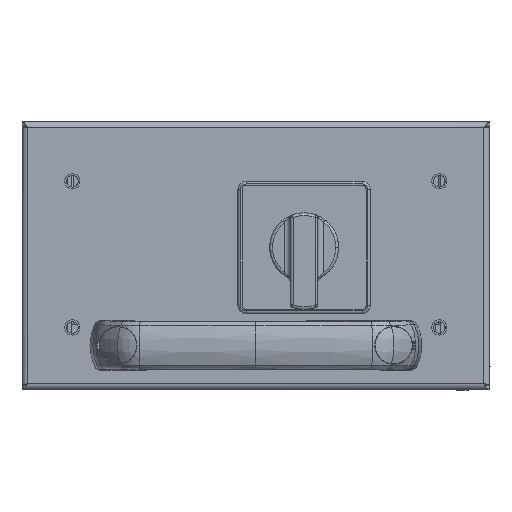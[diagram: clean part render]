
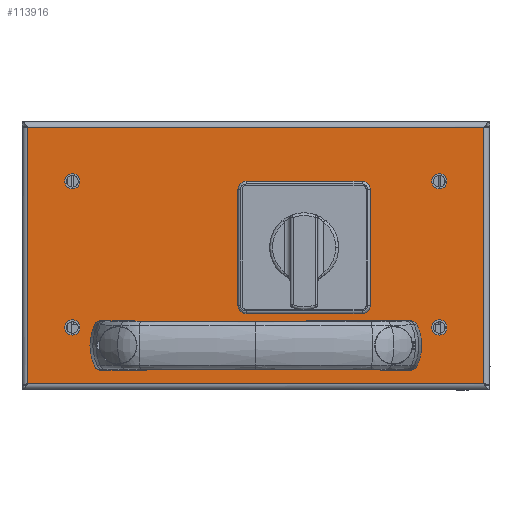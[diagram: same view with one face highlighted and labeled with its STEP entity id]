
A CAD part, top view. The second image highlights one B-rep face of the part: STEP entity #113916.
In plain terms, the highlighted planar face has unit normal (0, 0, 1).
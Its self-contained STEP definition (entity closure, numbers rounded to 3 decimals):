
#112956=CARTESIAN_POINT(' ',(52.75,-32.5,0.));
#112957=VERTEX_POINT(' ',#112956);
#112976=CARTESIAN_POINT(' ',(50.,-32.5,0.));
#112981=DIRECTION(' ',(0.,0.,1.));
#112986=DIRECTION(' ',(1.,0.,0.));
#112991=AXIS2_PLACEMENT_3D(' ',#112976,#112981,#112986);
#112996=CIRCLE('',#112991,2.75);
#113001=CARTESIAN_POINT(' ',(47.25,-32.5,0.));
#113002=VERTEX_POINT(' ',#113001);
#113006=EDGE_CURVE(' ',#112957,#113002,#112996,.T.);
#113176=CARTESIAN_POINT(' ',(50.,-32.5,0.));
#113181=DIRECTION(' ',(0.,0.,1.));
#113186=DIRECTION(' ',(-1.,0.,0.));
#113191=AXIS2_PLACEMENT_3D(' ',#113176,#113181,#113186);
#113196=CIRCLE('',#113191,2.75);
#113201=EDGE_CURVE(' ',#113002,#112957,#113196,.T.);
#113271=DIRECTION(' ',(-0.,-0.,1.));
#113276=CARTESIAN_POINT(' ',(82.65,-46.4,0.));
#113281=DIRECTION(' ',(0.,1.,0.));
#113286=AXIS2_PLACEMENT_3D(' ',#113276,#113271,#113281);
#113291=PLANE('NONE',#113286);
#113296=CARTESIAN_POINT(' ',(-82.65,46.4,0.));
#113301=DIRECTION(' ',(1.,0.,0.));
#113306=VECTOR(' ',#113301,1.);
#113311=LINE('',#113296,#113306);
#113316=CARTESIAN_POINT(' ',(-82.65,46.4,0.));
#113317=VERTEX_POINT(' ',#113316);
#113321=CARTESIAN_POINT(' ',(82.65,46.4,0.));
#113322=VERTEX_POINT(' ',#113321);
#113326=EDGE_CURVE(' ',#113317,#113322,#113311,.T.);
#113331=ORIENTED_EDGE(' ',*,*,#113326,.F.);
#113336=CARTESIAN_POINT(' ',(-82.65,-46.4,0.));
#113341=DIRECTION(' ',(0.,1.,0.));
#113346=VECTOR(' ',#113341,1.);
#113351=LINE('',#113336,#113346);
#113356=CARTESIAN_POINT(' ',(-82.65,-46.4,0.));
#113357=VERTEX_POINT(' ',#113356);
#113361=EDGE_CURVE(' ',#113357,#113317,#113351,.T.);
#113366=ORIENTED_EDGE(' ',*,*,#113361,.F.);
#113371=CARTESIAN_POINT(' ',(82.65,-46.4,0.));
#113376=DIRECTION(' ',(-1.,0.,0.));
#113381=VECTOR(' ',#113376,1.);
#113386=LINE('',#113371,#113381);
#113391=CARTESIAN_POINT(' ',(82.65,-46.4,0.));
#113392=VERTEX_POINT(' ',#113391);
#113396=EDGE_CURVE(' ',#113392,#113357,#113386,.T.);
#113401=ORIENTED_EDGE(' ',*,*,#113396,.F.);
#113406=CARTESIAN_POINT(' ',(82.65,46.4,0.));
#113411=DIRECTION(' ',(0.,-1.,0.));
#113416=VECTOR(' ',#113411,1.);
#113421=LINE('',#113406,#113416);
#113426=EDGE_CURVE(' ',#113322,#113392,#113421,.T.);
#113431=ORIENTED_EDGE(' ',*,*,#113426,.F.);
#113436=EDGE_LOOP(' ',(#113331,#113366,#113401,#113431));
#113441=FACE_OUTER_BOUND(' ',#113436,.T.);
#113446=CARTESIAN_POINT(' ',(66.5,27.,0.));
#113451=DIRECTION(' ',(0.,-0.,1.));
#113456=DIRECTION(' ',(-1.,0.,0.));
#113461=AXIS2_PLACEMENT_3D(' ',#113446,#113451,#113456);
#113466=CIRCLE('',#113461,2.75);
#113471=CARTESIAN_POINT(' ',(63.75,27.,0.));
#113472=VERTEX_POINT(' ',#113471);
#113476=CARTESIAN_POINT(' ',(69.25,27.,0.));
#113477=VERTEX_POINT(' ',#113476);
#113481=EDGE_CURVE(' ',#113472,#113477,#113466,.T.);
#113486=ORIENTED_EDGE(' ',*,*,#113481,.F.);
#113491=CARTESIAN_POINT(' ',(66.5,27.,0.));
#113496=DIRECTION(' ',(0.,0.,1.));
#113501=DIRECTION(' ',(1.,0.,0.));
#113506=AXIS2_PLACEMENT_3D(' ',#113491,#113496,#113501);
#113511=CIRCLE('',#113506,2.75);
#113516=EDGE_CURVE(' ',#113477,#113472,#113511,.T.);
#113521=ORIENTED_EDGE(' ',*,*,#113516,.F.);
#113526=EDGE_LOOP(' ',(#113486,#113521));
#113531=FACE_BOUND(' ',#113526,.T.);
#113536=CARTESIAN_POINT(' ',(-66.5,-26.,0.));
#113541=DIRECTION(' ',(0.,-0.,1.));
#113546=DIRECTION(' ',(-1.,0.,0.));
#113551=AXIS2_PLACEMENT_3D(' ',#113536,#113541,#113546);
#113556=CIRCLE('',#113551,2.75);
#113561=CARTESIAN_POINT(' ',(-69.25,-26.,0.));
#113562=VERTEX_POINT(' ',#113561);
#113566=CARTESIAN_POINT(' ',(-63.75,-26.,0.));
#113567=VERTEX_POINT(' ',#113566);
#113571=EDGE_CURVE(' ',#113562,#113567,#113556,.T.);
#113576=ORIENTED_EDGE(' ',*,*,#113571,.F.);
#113581=CARTESIAN_POINT(' ',(-66.5,-26.,0.));
#113586=DIRECTION(' ',(0.,0.,1.));
#113591=DIRECTION(' ',(1.,0.,0.));
#113596=AXIS2_PLACEMENT_3D(' ',#113581,#113586,#113591);
#113601=CIRCLE('',#113596,2.75);
#113606=EDGE_CURVE(' ',#113567,#113562,#113601,.T.);
#113611=ORIENTED_EDGE(' ',*,*,#113606,.F.);
#113616=EDGE_LOOP(' ',(#113576,#113611));
#113621=FACE_BOUND(' ',#113616,.T.);
#113626=CARTESIAN_POINT(' ',(66.5,-26.,0.));
#113631=DIRECTION(' ',(0.,-0.,1.));
#113636=DIRECTION(' ',(-1.,0.,0.));
#113641=AXIS2_PLACEMENT_3D(' ',#113626,#113631,#113636);
#113646=CIRCLE('',#113641,2.75);
#113651=CARTESIAN_POINT(' ',(63.75,-26.,0.));
#113652=VERTEX_POINT(' ',#113651);
#113656=CARTESIAN_POINT(' ',(69.25,-26.,0.));
#113657=VERTEX_POINT(' ',#113656);
#113661=EDGE_CURVE(' ',#113652,#113657,#113646,.T.);
#113666=ORIENTED_EDGE(' ',*,*,#113661,.F.);
#113671=CARTESIAN_POINT(' ',(66.5,-26.,0.));
#113676=DIRECTION(' ',(0.,0.,1.));
#113681=DIRECTION(' ',(1.,0.,0.));
#113686=AXIS2_PLACEMENT_3D(' ',#113671,#113676,#113681);
#113691=CIRCLE('',#113686,2.75);
#113696=EDGE_CURVE(' ',#113657,#113652,#113691,.T.);
#113701=ORIENTED_EDGE(' ',*,*,#113696,.F.);
#113706=EDGE_LOOP(' ',(#113666,#113701));
#113711=FACE_BOUND(' ',#113706,.T.);
#113716=CARTESIAN_POINT(' ',(-66.5,27.,0.));
#113721=DIRECTION(' ',(0.,-0.,1.));
#113726=DIRECTION(' ',(-1.,0.,0.));
#113731=AXIS2_PLACEMENT_3D(' ',#113716,#113721,#113726);
#113736=CIRCLE('',#113731,2.75);
#113741=CARTESIAN_POINT(' ',(-69.25,27.,0.));
#113742=VERTEX_POINT(' ',#113741);
#113746=CARTESIAN_POINT(' ',(-63.75,27.,0.));
#113747=VERTEX_POINT(' ',#113746);
#113751=EDGE_CURVE(' ',#113742,#113747,#113736,.T.);
#113756=ORIENTED_EDGE(' ',*,*,#113751,.F.);
#113761=CARTESIAN_POINT(' ',(-66.5,27.,0.));
#113766=DIRECTION(' ',(0.,0.,1.));
#113771=DIRECTION(' ',(1.,0.,0.));
#113776=AXIS2_PLACEMENT_3D(' ',#113761,#113766,#113771);
#113781=CIRCLE('',#113776,2.75);
#113786=EDGE_CURVE(' ',#113747,#113742,#113781,.T.);
#113791=ORIENTED_EDGE(' ',*,*,#113786,.F.);
#113796=EDGE_LOOP(' ',(#113756,#113791));
#113801=FACE_BOUND(' ',#113796,.T.);
#113806=ORIENTED_EDGE(' ',*,*,#113201,.F.);
#113811=ORIENTED_EDGE(' ',*,*,#113006,.F.);
#113816=EDGE_LOOP(' ',(#113806,#113811));
#113821=FACE_BOUND(' ',#113816,.T.);
#113826=CARTESIAN_POINT(' ',(-50.,-32.5,0.));
#113831=DIRECTION(' ',(0.,0.,1.));
#113836=DIRECTION(' ',(0.,1.,0.));
#113841=AXIS2_PLACEMENT_3D(' ',#113826,#113831,#113836);
#113846=CIRCLE('',#113841,2.75);
#113851=CARTESIAN_POINT(' ',(-50.,-29.75,0.));
#113852=VERTEX_POINT(' ',#113851);
#113856=CARTESIAN_POINT(' ',(-50.,-35.25,0.));
#113857=VERTEX_POINT(' ',#113856);
#113861=EDGE_CURVE(' ',#113852,#113857,#113846,.T.);
#113866=ORIENTED_EDGE(' ',*,*,#113861,.F.);
#113871=CARTESIAN_POINT(' ',(-50.,-32.5,0.));
#113876=DIRECTION(' ',(0.,0.,1.));
#113881=DIRECTION(' ',(0.,-1.,0.));
#113886=AXIS2_PLACEMENT_3D(' ',#113871,#113876,#113881);
#113891=CIRCLE('',#113886,2.75);
#113896=EDGE_CURVE(' ',#113857,#113852,#113891,.T.);
#113901=ORIENTED_EDGE(' ',*,*,#113896,.F.);
#113906=EDGE_LOOP(' ',(#113866,#113901));
#113911=FACE_BOUND(' ',#113906,.T.);
#113916=ADVANCED_FACE('NONE',(#113441,#113531,#113621,#113711,#113801,#113821,#113911),#113291,.T.);
